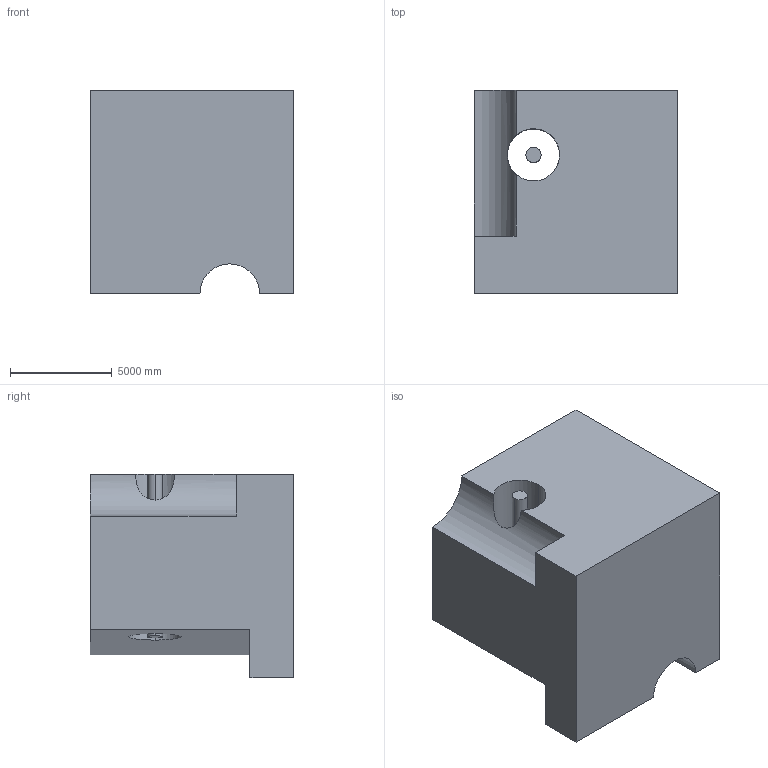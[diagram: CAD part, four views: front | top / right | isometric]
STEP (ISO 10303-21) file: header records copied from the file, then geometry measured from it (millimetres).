
FILE_DESCRIPTION (( 'STEP AP203' ), '1' );
FILE_NAME ('495.STEP', '2022-07-29T11:30:43', ( 'user' ), ( '' ), 'SwSTEP 2.0', 'SolidWorks 2021', '' );
FILE_SCHEMA (( 'CONFIG_CONTROL_DESIGN' ));
Length unit declared in the file: centimetre
Products named in the file (1): 495
Bounding box: 10000 x 10000 x 10000 mm (x, y, z)
Volume: 775669479953.3 mm3; surface area: 658896014.9 mm2
Topology: 3 solids, 3 shells, 33 faces, 84 edges, 56 vertices
Faces by surface type: cylinder 19, plane 14
Entity records: 2652 total; most frequent: CARTESIAN_POINT 1797, ORIENTED_EDGE 168, DIRECTION 148, EDGE_CURVE 84, VERTEX_POINT 56, AXIS2_PLACEMENT_3D 52, LINE 44, VECTOR 44
